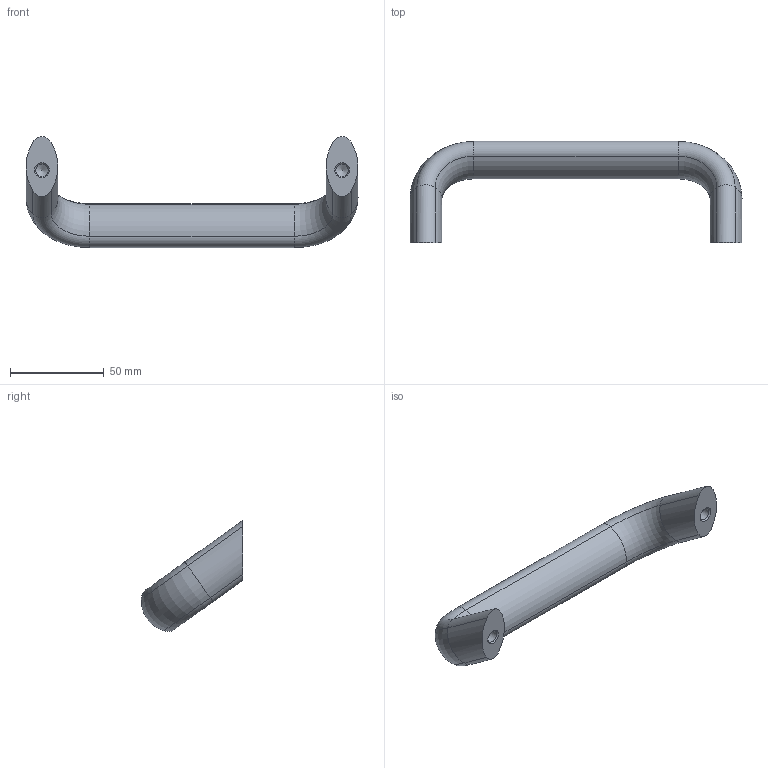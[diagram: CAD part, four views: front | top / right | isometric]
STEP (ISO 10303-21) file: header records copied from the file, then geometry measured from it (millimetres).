
FILE_DESCRIPTION( ( 'STEP AP203' ), '1' );
FILE_NAME( 'C:/Temp/Ganter_Step_05_03_2020/data/1_2/gn_565_2/Inclined cabinet „U“ handle GN 565.2-26-160-A-EL.stp', '2020-03-05T10:09:49', ( 'License CC BY-ND 4.0' ), ( 'CADENAS' ), ' ', 'PARTsolutions', ' ' );
FILE_SCHEMA( ( 'CONFIG_CONTROL_DESIGN' ) );
Length unit declared in the file: millimetre
Products named in the file (1): _Inclined cabinet U handle GN 565.2-26-160-A-EL
Bounding box: 177 x 53.97 x 59.2 mm (x, y, z)
Volume: 82881.2 mm3; surface area: 18093.6 mm2
Topology: 1 solids, 1 shells, 28 faces, 58 edges, 32 vertices
Faces by surface type: cylinder 14, torus 8, cone 4, plane 2
Full cylindrical faces by diameter (mm): 6.647 x2
Entity records: 744 total; most frequent: DIRECTION 146, CARTESIAN_POINT 111, ORIENTED_EDGE 100, AXIS2_PLACEMENT_3D 67, EDGE_CURVE 50, EDGE_LOOP 34, VERTEX_POINT 32, FACE_OUTER_BOUND 30
